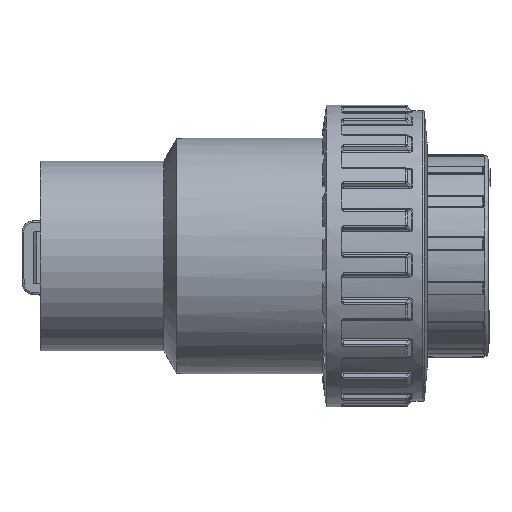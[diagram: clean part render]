
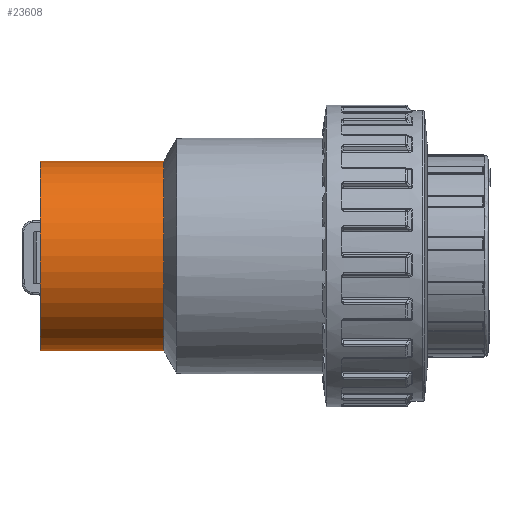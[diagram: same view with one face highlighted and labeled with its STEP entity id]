
A CAD part, top view. The second image highlights one B-rep face of the part: STEP entity #23608.
In plain terms, the highlighted cylindrical face has radius 25 mm (diameter 50 mm), a full revolution.
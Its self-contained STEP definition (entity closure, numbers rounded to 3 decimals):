
#626=FACE_BOUND('',#4312,.T.);
#1393=CIRCLE('',#25264,25.);
#1394=CIRCLE('',#25265,25.);
#2540=CYLINDRICAL_SURFACE('',#25263,25.);
#2848=FACE_OUTER_BOUND('',#4311,.T.);
#4311=EDGE_LOOP('',(#15980));
#4312=EDGE_LOOP('',(#15981));
#9841=VERTEX_POINT('',#35559);
#9842=VERTEX_POINT('',#35561);
#12241=EDGE_CURVE('',#9841,#9841,#1393,.T.);
#12242=EDGE_CURVE('',#9842,#9842,#1394,.T.);
#15980=ORIENTED_EDGE('',*,*,#12241,.F.);
#15981=ORIENTED_EDGE('',*,*,#12242,.T.);
#23608=ADVANCED_FACE('',(#2848,#626),#2540,.T.);
#25263=AXIS2_PLACEMENT_3D('',#35558,#27872,#27873);
#25264=AXIS2_PLACEMENT_3D('',#35560,#27874,#27875);
#25265=AXIS2_PLACEMENT_3D('',#35562,#27876,#27877);
#27872=DIRECTION('center_axis',(1.,0.,0.));
#27873=DIRECTION('ref_axis',(0.,1.,0.));
#27874=DIRECTION('center_axis',(1.,0.,0.));
#27875=DIRECTION('ref_axis',(0.,0.,-1.));
#27876=DIRECTION('center_axis',(1.,0.,0.));
#27877=DIRECTION('ref_axis',(0.,0.,-1.));
#35558=CARTESIAN_POINT('Origin',(-85.136,0.,0.));
#35559=CARTESIAN_POINT('',(-68.886,25.,0.));
#35560=CARTESIAN_POINT('Origin',(-68.886,0.,0.));
#35561=CARTESIAN_POINT('',(-101.386,25.,0.));
#35562=CARTESIAN_POINT('Origin',(-101.386,0.,0.));
